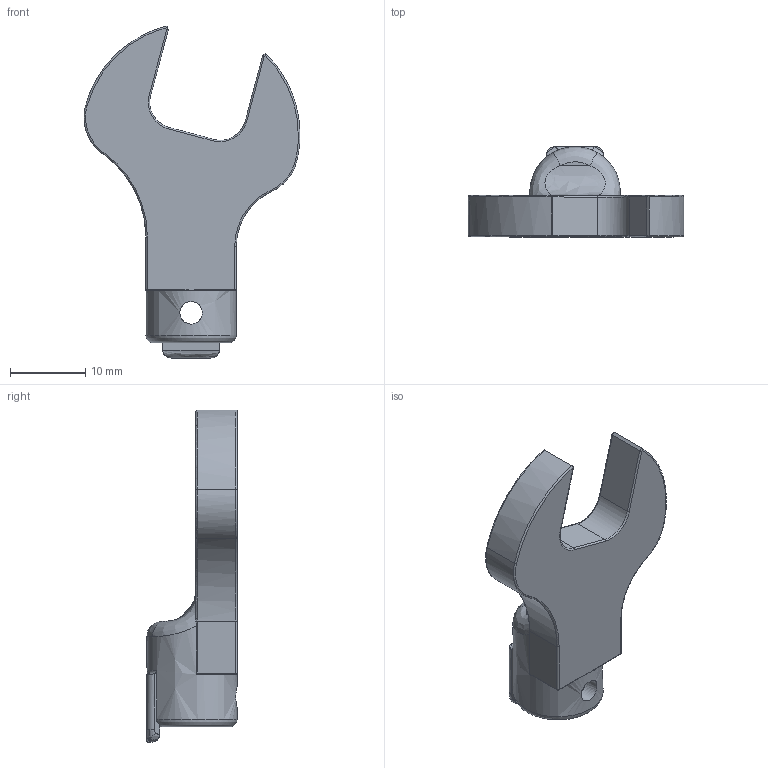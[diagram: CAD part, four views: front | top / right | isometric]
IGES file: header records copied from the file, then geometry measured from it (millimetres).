
Global section: file name: SH8DX13; native system: Autodesk Inventor 2016; preprocessor: unknown; author: Q600; date: 20151029.194205; units: millimetre
Bounding box: 28.65 x 12 x 44.07 mm (x, y, z)
Volume: 3501.8 mm3; surface area: 2401.3 mm2
Topology: 1 solids, 1 shells, 108 faces, 277 edges, 164 vertices
Faces by surface type: bspline 108
